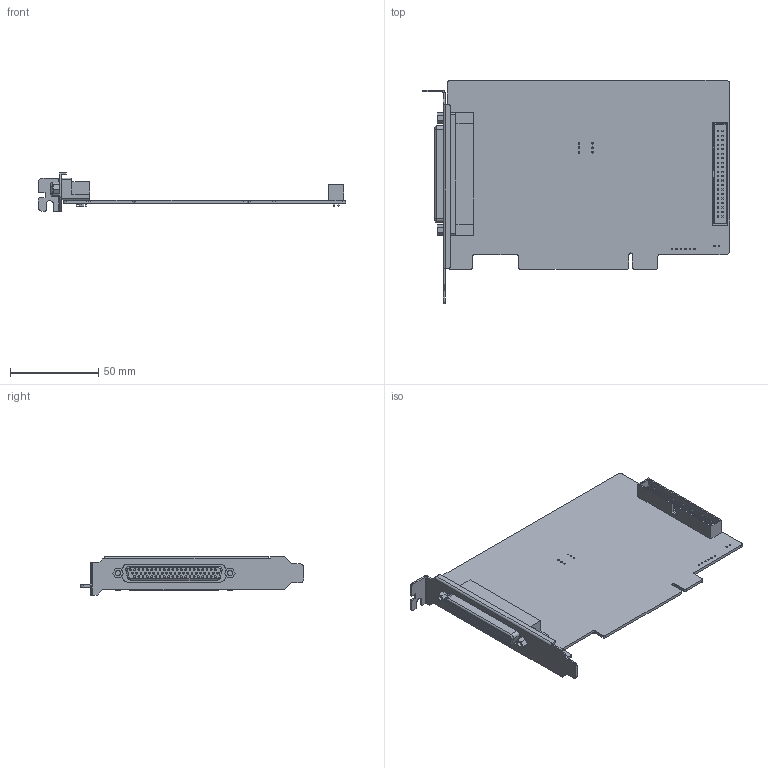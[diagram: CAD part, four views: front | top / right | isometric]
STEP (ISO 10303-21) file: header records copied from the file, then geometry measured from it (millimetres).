
FILE_DESCRIPTION((''),'2;1');
FILE_NAME('000-ADT-8940A1_ASM','2020-06-23T',('Administrator'),(''),'CREO PARAMETRIC BY PTC INC, 2017480','CREO PARAMETRIC BY PTC INC, 2017480','');
FILE_SCHEMA(('AUTOMOTIVE_DESIGN { 1 0 10303 214 1 1 1 1 }'));
Length unit declared in the file: millimetre
Products named in the file (1): 000-ADT-8940A1_ASM
Bounding box: 173.93 x 126.6 x 21.7 mm (x, y, z)
Volume: 44419.5 mm3; surface area: 46125.5 mm2
Topology: 1 solids, 1 shells, 1606 faces, 3522 edges, 2234 vertices
Faces by surface type: plane 1060, cylinder 541, bspline 4, torus 1
Entity records: 55280 total; most frequent: DIRECTION 7810, CARTESIAN_POINT 7471, ORIENTED_EDGE 7044, EDGE_CURVE 3522, AXIS2_PLACEMENT_3D 2688, VECTOR 2434, LINE 2434, VERTEX_POINT 2234
